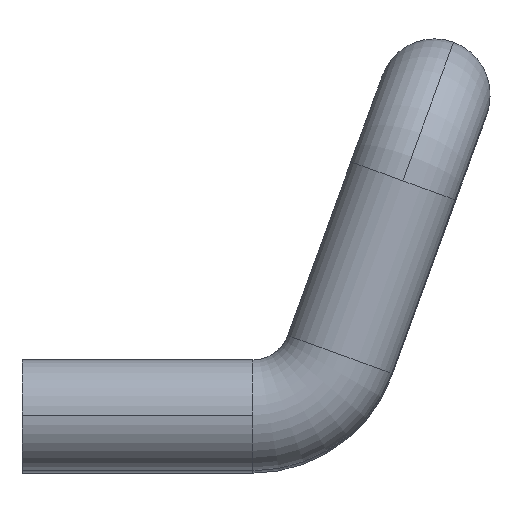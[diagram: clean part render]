
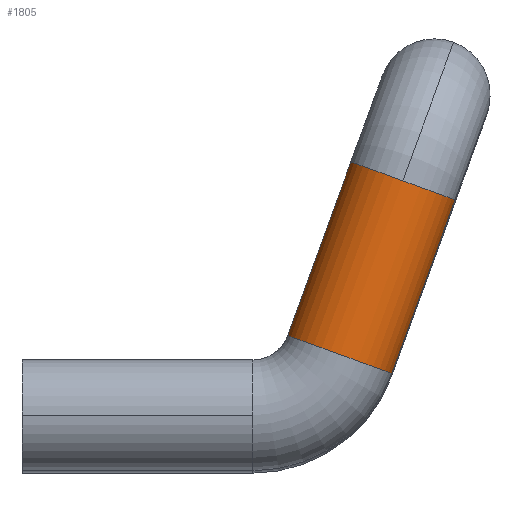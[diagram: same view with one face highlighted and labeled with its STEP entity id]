
A CAD part, top view. The second image highlights one B-rep face of the part: STEP entity #1805.
In plain terms, the highlighted cylindrical face has radius 6 mm (diameter 12 mm), a partial arc.
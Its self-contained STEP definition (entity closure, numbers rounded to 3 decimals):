
#1701 = VERTEX_POINT ( 'NONE', #6882 ) ;
#1707 = VERTEX_POINT ( 'NONE', #6879 ) ;
#1710 = EDGE_CURVE ( 'NONE', #1701, #1715, #6830, .T. ) ;
#1715 = VERTEX_POINT ( 'NONE', #6852 ) ;
#1722 = VERTEX_POINT ( 'NONE', #6904 ) ;
#1773 = EDGE_CURVE ( 'NONE', #1707, #1722, #5283, .T. ) ;
#1799 = EDGE_LOOP ( 'NONE', ( #1807, #1809, #1808, #1827, #1817 ) ) ;
#1802 = EDGE_CURVE ( 'NONE', #1701, #1803, #7100, .T. ) ;
#1803 = VERTEX_POINT ( 'NONE', #7098 ) ;
#1805 = ADVANCED_FACE ( 'NONE', ( #7092 ), #7058, .T. ) ;
#1807 = ORIENTED_EDGE ( 'NONE', *, *, #1710, .F. ) ;
#1808 = ORIENTED_EDGE ( 'NONE', *, *, #1814, .T. ) ;
#1809 = ORIENTED_EDGE ( 'NONE', *, *, #1802, .T. ) ;
#1811 = EDGE_CURVE ( 'NONE', #1715, #1722, #7091, .T. ) ;
#1814 = EDGE_CURVE ( 'NONE', #1803, #1707, #7041, .T. ) ;
#1817 = ORIENTED_EDGE ( 'NONE', *, *, #1811, .F. ) ;
#1827 = ORIENTED_EDGE ( 'NONE', *, *, #1773, .T. ) ;
#5274 = CARTESIAN_POINT ( 'NONE',  ( 41.235, 25.372, 150. ) ) ;
#5275 = AXIS2_PLACEMENT_3D ( 'NONE', #5274, #6748, #6729 ) ;
#5283 = CIRCLE ( 'NONE', #5275, 6. ) ;
#6729 = DIRECTION ( 'NONE',  ( 0., 0., 1. ) ) ;
#6748 = DIRECTION ( 'NONE',  ( -0.342, -0.94, 0. ) ) ;
#6830 = CIRCLE ( 'NONE', #6867, 6. ) ;
#6852 = CARTESIAN_POINT ( 'NONE',  ( 28.757, 8.632, 150. ) ) ;
#6863 = DIRECTION ( 'NONE',  ( 0., 0., 1. ) ) ;
#6864 = DIRECTION ( 'NONE',  ( -0.342, -0.94, 0. ) ) ;
#6867 = AXIS2_PLACEMENT_3D ( 'NONE', #6880, #6864, #6863 ) ;
#6879 = CARTESIAN_POINT ( 'NONE',  ( 41.235, 25.372, 156. ) ) ;
#6880 = CARTESIAN_POINT ( 'NONE',  ( 34.395, 6.58, 150. ) ) ;
#6882 = CARTESIAN_POINT ( 'NONE',  ( 40.033, 4.528, 150. ) ) ;
#6904 = CARTESIAN_POINT ( 'NONE',  ( 35.596, 27.424, 150. ) ) ;
#7041 = CIRCLE ( 'NONE', #7078, 6. ) ;
#7043 = AXIS2_PLACEMENT_3D ( 'NONE', #7096, #7086, #7085 ) ;
#7058 = CYLINDRICAL_SURFACE ( 'NONE', #7043, 6. ) ;
#7072 = DIRECTION ( 'NONE',  ( 0., 0., 1. ) ) ;
#7073 = DIRECTION ( 'NONE',  ( -0.342, -0.94, 0. ) ) ;
#7078 = AXIS2_PLACEMENT_3D ( 'NONE', #7084, #7073, #7072 ) ;
#7084 = CARTESIAN_POINT ( 'NONE',  ( 41.235, 25.372, 150. ) ) ;
#7085 = DIRECTION ( 'NONE',  ( -0.94, 0.342, 0. ) ) ;
#7086 = DIRECTION ( 'NONE',  ( 0.342, 0.94, 0. ) ) ;
#7087 = DIRECTION ( 'NONE',  ( 0.342, 0.94, 0. ) ) ;
#7088 = VECTOR ( 'NONE', #7087, 1000. ) ;
#7090 = CARTESIAN_POINT ( 'NONE',  ( 28.757, 8.632, 150. ) ) ;
#7091 = LINE ( 'NONE', #7090, #7088 ) ;
#7092 = FACE_OUTER_BOUND ( 'NONE', #1799, .T. ) ;
#7094 = DIRECTION ( 'NONE',  ( 0.342, 0.94, 0. ) ) ;
#7095 = VECTOR ( 'NONE', #7094, 1000. ) ;
#7096 = CARTESIAN_POINT ( 'NONE',  ( 34.395, 6.58, 150. ) ) ;
#7098 = CARTESIAN_POINT ( 'NONE',  ( 46.873, 23.32, 150. ) ) ;
#7099 = CARTESIAN_POINT ( 'NONE',  ( 40.033, 4.528, 150. ) ) ;
#7100 = LINE ( 'NONE', #7099, #7095 ) ;
